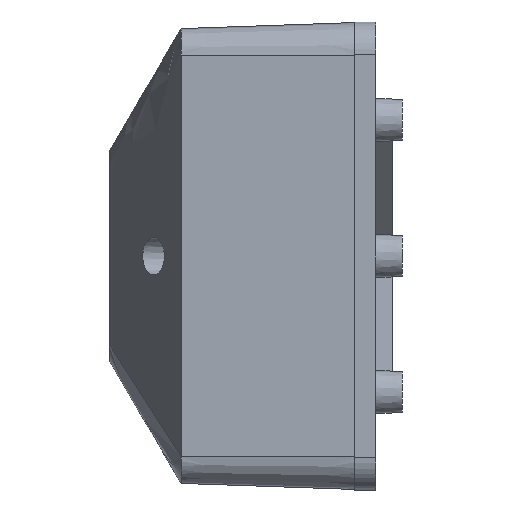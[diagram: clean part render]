
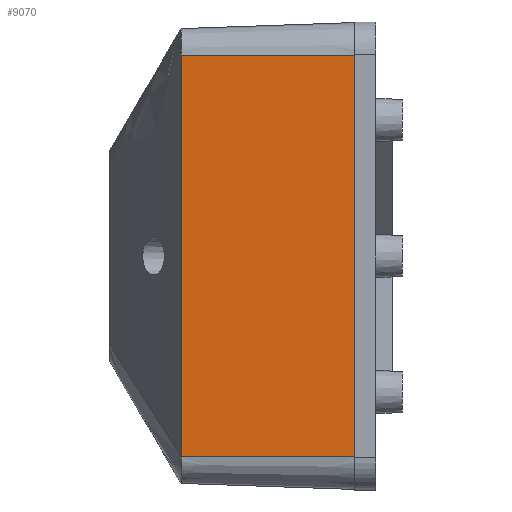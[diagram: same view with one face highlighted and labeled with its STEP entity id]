
A CAD part, left-side view. The second image highlights one B-rep face of the part: STEP entity #9070.
In plain terms, the highlighted planar face has unit normal (-0.999, 0.035, 0).
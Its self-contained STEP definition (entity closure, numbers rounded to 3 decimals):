
#25 = VECTOR ( 'NONE', #4026, 1000. ) ;
#643 = CARTESIAN_POINT ( 'NONE',  ( -76.165, 31.8, -12.465 ) ) ;
#731 = CARTESIAN_POINT ( 'NONE',  ( -77.275, 0., 36.9 ) ) ;
#934 = DIRECTION ( 'NONE',  ( 0.035, 0.999, 0. ) ) ;
#1157 = CARTESIAN_POINT ( 'NONE',  ( -76.165, 31.8, 36.9 ) ) ;
#1483 = AXIS2_PLACEMENT_3D ( 'NONE', #1782, #8734, #934 ) ;
#1493 = CARTESIAN_POINT ( 'NONE',  ( -76.165, 31.8, -30.842 ) ) ;
#1512 = CARTESIAN_POINT ( 'NONE',  ( -77.275, 0., 36.9 ) ) ;
#1782 = CARTESIAN_POINT ( 'NONE',  ( -77.275, 0., 42.9 ) ) ;
#2803 = CARTESIAN_POINT ( 'NONE',  ( -77.275, 0., -36.9 ) ) ;
#3176 = CARTESIAN_POINT ( 'NONE',  ( -76.165, 31.8, -36.9 ) ) ;
#3354 = DIRECTION ( 'NONE',  ( 0.035, 0.999, 0. ) ) ;
#4026 = DIRECTION ( 'NONE',  ( 0., 0., -1. ) ) ;
#4068 = CARTESIAN_POINT ( 'NONE',  ( -76.165, 31.8, 12.465 ) ) ;
#4181 = EDGE_CURVE ( 'NONE', #9582, #10431, #7625, .T. ) ;
#4894 = EDGE_CURVE ( 'NONE', #8764, #10113, #8121, .T. ) ;
#5019 = CARTESIAN_POINT ( 'NONE',  ( -76.165, 31.8, 30.842 ) ) ;
#5160 = EDGE_LOOP ( 'NONE', ( #6043, #6651, #10322, #8931 ) ) ;
#5259 = VECTOR ( 'NONE', #3354, 1000. ) ;
#6043 = ORIENTED_EDGE ( 'NONE', *, *, #9531, .F. ) ;
#6267 = DIRECTION ( 'NONE',  ( -0.035, -0.999, 0. ) ) ;
#6651 = ORIENTED_EDGE ( 'NONE', *, *, #4894, .T. ) ;
#6940 = PLANE ( 'NONE',  #1483 ) ;
#7496 = CARTESIAN_POINT ( 'NONE',  ( -76.165, 31.8, 36.9 ) ) ;
#7625 = LINE ( 'NONE', #1512, #5259 ) ;
#7729 = VECTOR ( 'NONE', #6267, 1000. ) ;
#8121 = LINE ( 'NONE', #8900, #7729 ) ;
#8678 = FACE_OUTER_BOUND ( 'NONE', #5160, .T. ) ;
#8734 = DIRECTION ( 'NONE',  ( -0.999, 0.035, 0. ) ) ;
#8764 = VERTEX_POINT ( 'NONE', #10823 ) ;
#8900 = CARTESIAN_POINT ( 'NONE',  ( -77.275, 0., -36.9 ) ) ;
#8931 = ORIENTED_EDGE ( 'NONE', *, *, #4181, .T. ) ;
#9070 = ADVANCED_FACE ( 'NONE', ( #8678 ), #6940, .T. ) ;
#9242 = CARTESIAN_POINT ( 'NONE',  ( -77.275, 0., 42.9 ) ) ;
#9531 = EDGE_CURVE ( 'NONE', #8764, #10431, #9574, .T. ) ;
#9574 = B_SPLINE_CURVE_WITH_KNOTS ( 'NONE', 3,
 ( #3176, #1493, #643, #4068, #5019, #7496 ),
 .UNSPECIFIED., .F., .F.,
 ( 4, 1, 1, 4 ),
 ( 0., 0.018, 0.055, 0.074 ),
 .UNSPECIFIED. ) ;
#9582 = VERTEX_POINT ( 'NONE', #731 ) ;
#10084 = LINE ( 'NONE', #9242, #25 ) ;
#10113 = VERTEX_POINT ( 'NONE', #2803 ) ;
#10322 = ORIENTED_EDGE ( 'NONE', *, *, #10575, .F. ) ;
#10431 = VERTEX_POINT ( 'NONE', #1157 ) ;
#10575 = EDGE_CURVE ( 'NONE', #9582, #10113, #10084, .T. ) ;
#10823 = CARTESIAN_POINT ( 'NONE',  ( -76.165, 31.8, -36.9 ) ) ;
